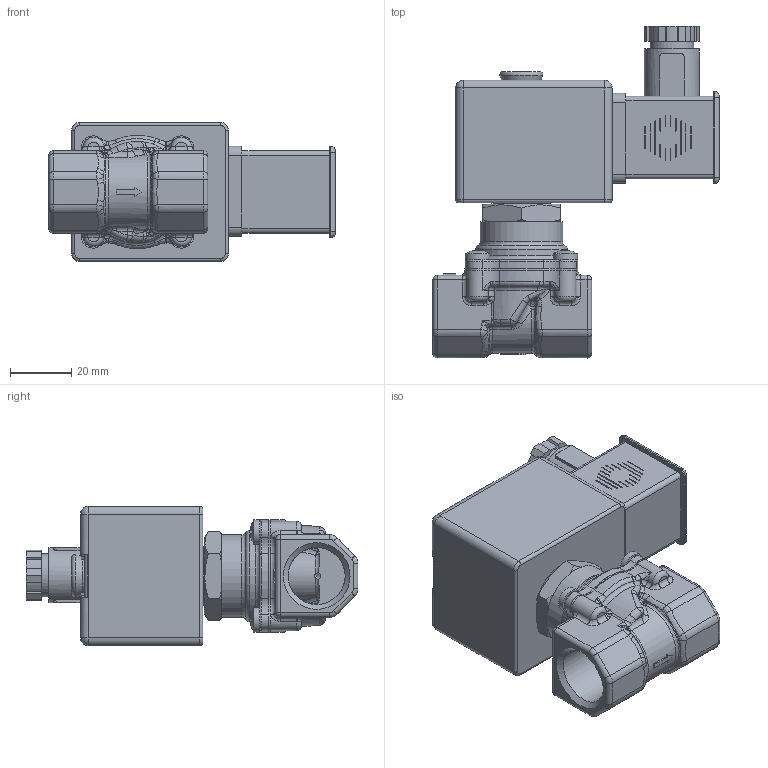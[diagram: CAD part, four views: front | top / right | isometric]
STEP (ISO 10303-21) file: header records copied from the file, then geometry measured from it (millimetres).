
FILE_DESCRIPTION(/* description */ (''),/* implementation_level */ '2;1');
FILE_NAME(/* name */ 'U:/AirCom-Produktdokumentation/Volumenstromregelung/PV203/Zeichnungen/CAD-Aircom/3D/B-PV203-4-125W.step',/* time_stamp */ '2022-06-08T14:40:59+02:00',/* author */ (''),/* organization */ (''),/* preprocessor_version */ 'ST-DEVELOPER v19',/* originating_system */ 'Autodesk Translation Framework v11.7.0.108',/* authorisation */ '');
FILE_SCHEMA (('AUTOMOTIVE_DESIGN { 1 0 10303 214 3 1 1 }'));
Length unit declared in the file: millimetre
Products named in the file (1): SCG203B002V_24VDC
Bounding box: 93.7 x 108.56 x 45.5 mm (x, y, z)
Volume: 159636.7 mm3; surface area: 31959.4 mm2
Topology: 1 solids, 2 shells, 1054 faces, 2605 edges, 1553 vertices
Faces by surface type: plane 444, cylinder 311, bspline 168, torus 83, sphere 27, cone 21
Full cylindrical faces by diameter (mm): 5 x2, 5.105 x2, 6 x1, 7 x1, 8 x4, 10.5 x2, 12.6 x1, 13.5 x1, 14 x1, 14.05 x1, 14.2 x1, 16.3 x1, 16.84 x1, 18 x1, 18.631 x2, 27 x1, 30 x1
Entity records: 42099 total; most frequent: CARTESIAN_POINT 18122, ORIENTED_EDGE 5112, DIRECTION 4905, EDGE_CURVE 2556, AXIS2_PLACEMENT_3D 1837, VERTEX_POINT 1554, LINE 1231, VECTOR 1231
